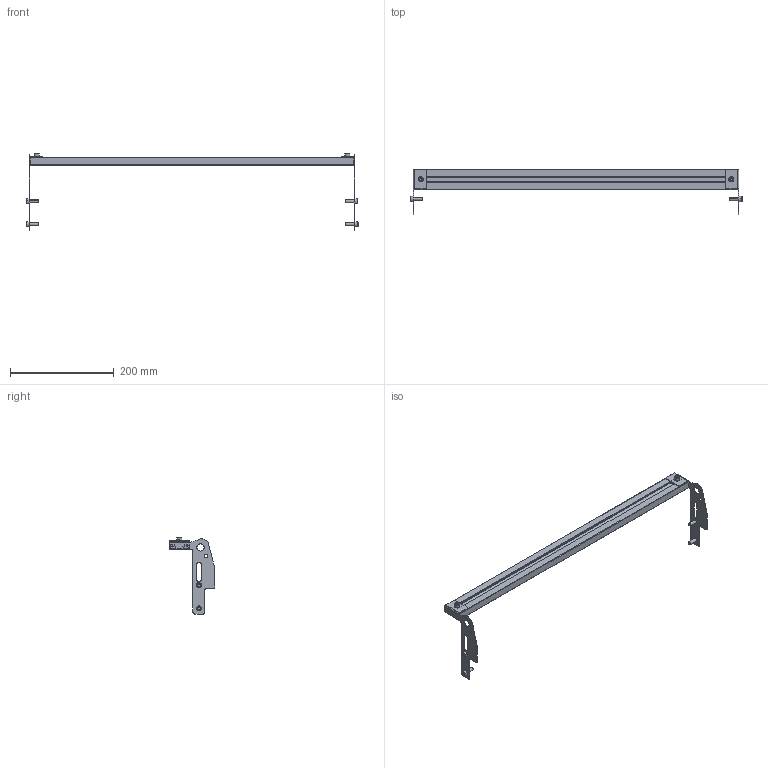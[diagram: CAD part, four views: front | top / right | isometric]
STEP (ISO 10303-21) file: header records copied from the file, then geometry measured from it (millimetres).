
FILE_DESCRIPTION (( 'STEP AP203' ), '1' );
FILE_NAME ('207213-24.STEP', '2016-11-29T19:27:07', ( '' ), ( '' ), 'SwSTEP 2.0', 'SolidWorks 2015', '' );
FILE_SCHEMA (( 'CONFIG_CONTROL_DESIGN' ));
Length unit declared in the file: inch
Products named in the file (7): 207213-24; 207130-LH; 207216-WW_207216-24; 207130-RH; 9206XXM_920618M; 834-FASN-M6; 9206XXM_920612M
Assembly tree (11 placements, depth 2):
  207213-24
    207130-RH
    207216-WW_207216-24
    834-FASN-M6  x2
    9206XXM_920612M  x2
    207130-LH
    9206XXM_920618M  x4
Bounding box: 640.95 x 88.64 x 147.88 mm (x, y, z)
Volume: 194848.3 mm3; surface area: 178191.3 mm2
Topology: 11 solids, 11 shells, 342 faces, 812 edges, 504 vertices
Faces by surface type: plane 148, cylinder 128, cone 66
Entity records: 8241 total; most frequent: CARTESIAN_POINT 1368, DIRECTION 1330, ORIENTED_EDGE 1212, EDGE_CURVE 606, AXIS2_PLACEMENT_3D 490, VERTEX_POINT 388, LINE 350, VECTOR 350
